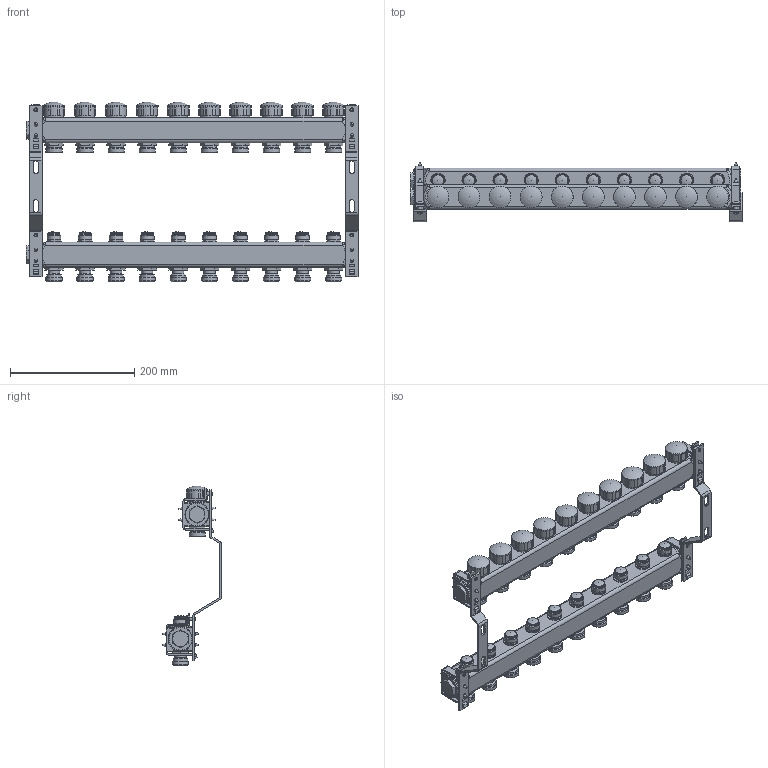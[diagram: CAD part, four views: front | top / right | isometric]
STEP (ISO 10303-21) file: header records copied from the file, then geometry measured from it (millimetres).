
FILE_DESCRIPTION(('STEP AP203'), '1');
FILE_NAME('VTc.582.EMNX.0610', '', ('UNSPECIFIED'), ('UNSPECIFIED'), 'C3D Converter', 'C3D Toolkit', '');
FILE_SCHEMA(('CONFIG_CONTROL_DESIGN'));
Length unit declared in the file: millimetre
Products named in the file (1): -07
Bounding box: 534.2 x 95.7 x 289.2 mm (x, y, z)
Volume: 2149002.1 mm3; surface area: 289441 mm2
Topology: 1 solids, 1 shells, 1386 faces, 3716 edges, 2380 vertices
Faces by surface type: plane 796, cylinder 344, cone 110, torus 80, bspline 36, sphere 20
Full cylindrical faces by diameter (mm): 5.4 x16, 6 x8, 12 x4, 18.4 x10, 19.3 x10, 22.9 x10, 23 x10, 23.5 x10, 25.9 x10, 26 x10, 29.5 x10, 34.9 x10, 35.3 x2, 36.5 x2, 39.3 x4
Entity records: 52442 total; most frequent: CARTESIAN_POINT 18751, DIRECTION 6870, ORIENTED_EDGE 6856, EDGE_CURVE 3428, AXIS2_PLACEMENT_3D 2427, VERTEX_POINT 2358, LINE 2016, VECTOR 2016
